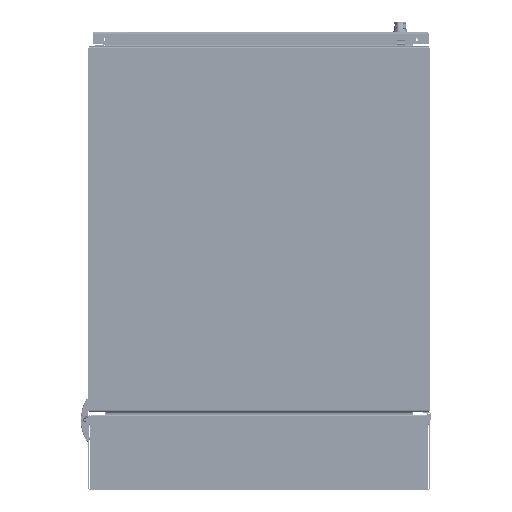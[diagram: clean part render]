
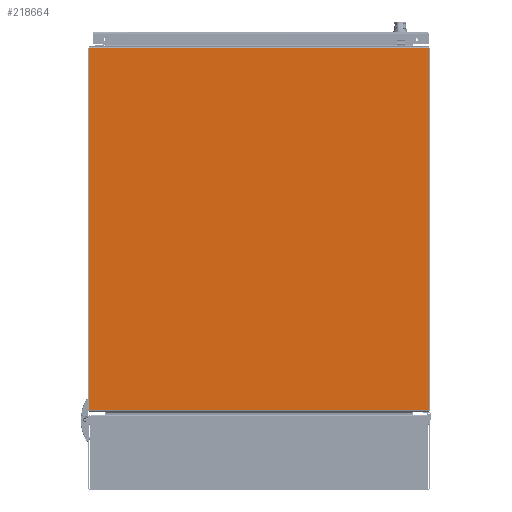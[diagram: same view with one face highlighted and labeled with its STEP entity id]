
A CAD part, front view. The second image highlights one B-rep face of the part: STEP entity #218664.
In plain terms, the highlighted planar face has unit normal (0, -1, 0).
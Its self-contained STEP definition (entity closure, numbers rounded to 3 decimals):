
#49161 = VERTEX_POINT ( 'NONE', #149220 ) ;
#49164 = VERTEX_POINT ( 'NONE', #149233 ) ;
#49169 = VERTEX_POINT ( 'NONE', #149191 ) ;
#49175 = VERTEX_POINT ( 'NONE', #149276 ) ;
#88897 = LINE ( 'NONE', #102120, #88912 ) ;
#88904 = VECTOR ( 'NONE', #102149, 1000. ) ;
#88911 = LINE ( 'NONE', #102146, #88904 ) ;
#88912 = VECTOR ( 'NONE', #102131, 1000. ) ;
#88957 = LINE ( 'NONE', #102281, #88966 ) ;
#88964 = VECTOR ( 'NONE', #102313, 1000. ) ;
#88966 = VECTOR ( 'NONE', #102294, 1000. ) ;
#88969 = LINE ( 'NONE', #102310, #88964 ) ;
#102120 = CARTESIAN_POINT ( 'NONE',  ( 348.171, 0., -375. ) ) ;
#102131 = DIRECTION ( 'NONE',  ( 0., 0., -1. ) ) ;
#102146 = CARTESIAN_POINT ( 'NONE',  ( -348.171, 0., -375. ) ) ;
#102149 = DIRECTION ( 'NONE',  ( 0., 0., 1. ) ) ;
#102281 = CARTESIAN_POINT ( 'NONE',  ( 348.171, 0., 370.885 ) ) ;
#102294 = DIRECTION ( 'NONE',  ( -1., 0., 0. ) ) ;
#102310 = CARTESIAN_POINT ( 'NONE',  ( -348.171, 0., -370.885 ) ) ;
#102313 = DIRECTION ( 'NONE',  ( 1., 0., 0. ) ) ;
#116414 = AXIS2_PLACEMENT_3D ( 'NONE', #359736, #359795, #359798 ) ;
#149191 = CARTESIAN_POINT ( 'NONE',  ( 348.171, 0., 370.885 ) ) ;
#149220 = CARTESIAN_POINT ( 'NONE',  ( -348.171, 0., 370.885 ) ) ;
#149233 = CARTESIAN_POINT ( 'NONE',  ( -348.171, 0., -370.885 ) ) ;
#149276 = CARTESIAN_POINT ( 'NONE',  ( 348.171, 0., -370.885 ) ) ;
#202143 = FACE_OUTER_BOUND ( 'NONE', #269917, .T. ) ;
#218664 = ADVANCED_FACE ( 'NONE', ( #202143 ), #359789, .F. ) ;
#254208 = ORIENTED_EDGE ( 'NONE', *, *, #428309, .T. ) ;
#254212 = ORIENTED_EDGE ( 'NONE', *, *, #428228, .F. ) ;
#254216 = ORIENTED_EDGE ( 'NONE', *, *, #428301, .T. ) ;
#254221 = ORIENTED_EDGE ( 'NONE', *, *, #428236, .F. ) ;
#269917 = EDGE_LOOP ( 'NONE', ( #254208, #254212, #254216, #254221 ) ) ;
#359736 = CARTESIAN_POINT ( 'NONE',  ( 348.171, 0., 375. ) ) ;
#359789 = PLANE ( 'NONE',  #116414 ) ;
#359795 = DIRECTION ( 'NONE',  ( 0., 1., 0. ) ) ;
#359798 = DIRECTION ( 'NONE',  ( 0., 0., 1. ) ) ;
#428228 = EDGE_CURVE ( 'NONE', #49169, #49175, #88897, .T. ) ;
#428236 = EDGE_CURVE ( 'NONE', #49164, #49161, #88911, .T. ) ;
#428301 = EDGE_CURVE ( 'NONE', #49169, #49161, #88957, .T. ) ;
#428309 = EDGE_CURVE ( 'NONE', #49164, #49175, #88969, .T. ) ;
